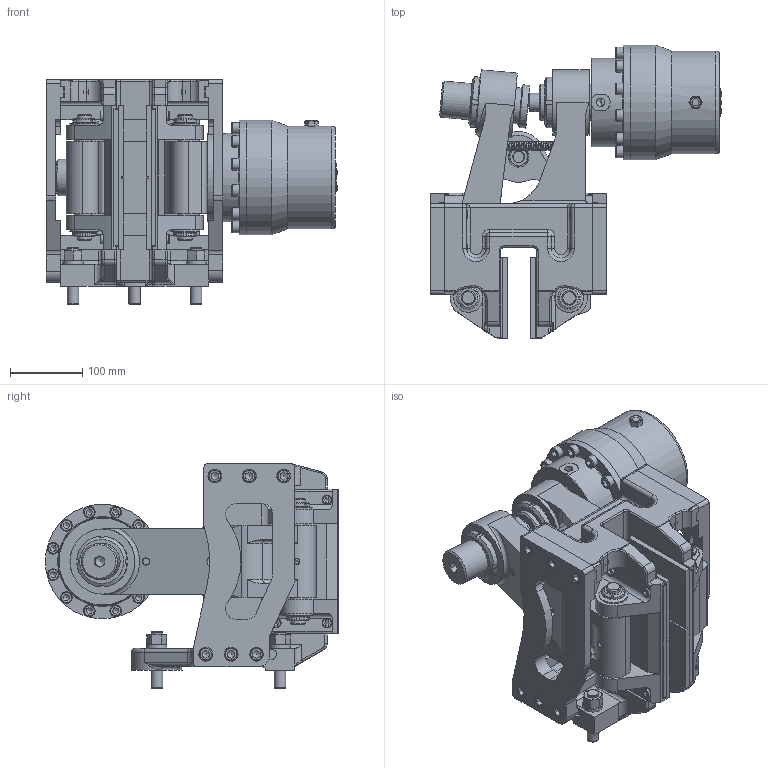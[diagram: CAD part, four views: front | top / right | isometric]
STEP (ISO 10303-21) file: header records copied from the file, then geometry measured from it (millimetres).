
FILE_DESCRIPTION(/* description */ ('','CAx-IF Rec.Pracs.---Representation and Presentation of Product Manufacturing Information (PMI)---4.0---2014-10-13'),/* implementation_level */ '2;1');
FILE_NAME(/* name */ 'X:\INVENTOR\DISEGNI\19_Pinze\STEP x Sito\OLEO-NEGATIVE\19_46_064_05 POT-N064_30.stp',/* time_stamp */ '2018-10-26T08:12:13+02:00',/* author */ ('stefano'),/* organization */ (''),/* preprocessor_version */ 'ST-DEVELOPER v17',/* originating_system */ 'Autodesk Inventor 2018',/* authorisation */ '');
FILE_SCHEMA (('AP242_MANAGED_MODEL_BASED_3D_ENGINEERING_MIM_LF { 1 0 10303 442 1 1 4 }'));
Products named in the file (1): 19_46_064_05 POT-N064_30_Substitute_2
Bounding box: 402.45 x 405 x 310 mm (x, y, z)
Volume: 10108828.4 mm3; surface area: 1179457.5 mm2
Topology: 1 solids, 1 shells, 1809 faces, 4981 edges, 3232 vertices
Faces by surface type: plane 892, cylinder 511, cone 177, torus 174, bspline 35, sphere 20
Full cylindrical faces by diameter (mm): 1.8 x2, 2.5 x1, 4.917 x1, 5 x1, 7.4 x2, 7.5 x2, 7.6 x3, 8 x9, 8.376 x1, 8.5 x8, 8.917 x2, 9 x2, 9.188 x1, 10 x3, 10.106 x3, 10.5 x5, 11.445 x2, 12 x14, 12.5 x12, 13 x8, 13.157 x1, 13.5 x8, 14 x1, 16 x18, 16.5 x4, 17 x3, 18 x13, 19 x12, 19.5 x11, 20 x14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
Entity records: 68045 total; most frequent: CARTESIAN_POINT 20262, ORIENTED_EDGE 9818, DIRECTION 9800, EDGE_CURVE 4909, AXIS2_PLACEMENT_3D 3765, VERTEX_POINT 3232, LINE 2270, VECTOR 2270
